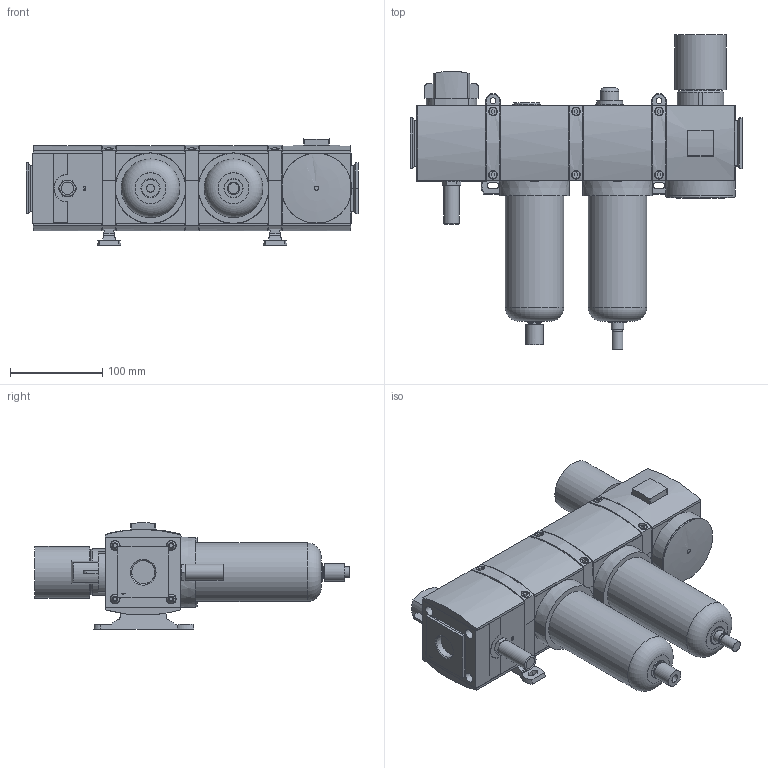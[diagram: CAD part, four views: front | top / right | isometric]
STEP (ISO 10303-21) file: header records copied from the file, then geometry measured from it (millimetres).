
FILE_DESCRIPTION( ( 'STEP AP214' ), '1' );
FILE_NAME( 'p:/temp/worker_226/temp/exporttempdir_3832_960_TXNf0/format_0/07382020-200234_gen_23170.stp', '2020-02-07T19:38:36', ( '' ), ( '' ), ' ', 'PARTsolutions', ' ' );
FILE_SCHEMA( ( 'AUTOMOTIVE_DESIGN { 1 0 10303 214 1 1 1 1 }' ) );
Length unit declared in the file: millimetre
Products named in the file (20): 07382020-200234_gen_23170; _440562-004-005-F(L); _439489-001-0; _437742 KNOB-100_653; _653-M3MN; _440561-004-005-F(L); _G653ASLA0B00A00_LS; _439498-011-F(L); _439851-002; _507439-006-P; _653-440512-002; _G653ASLA0A00A00_LS; _439851-001; _653-501862-002; _439488-011-F(L); _439489-002-H; _653-438047-009; _503493-001; _510722-001-STANDARD_653; _503402-001
Assembly tree (28 placements, depth 2):
  07382020-200234_gen_23170
    _440562-004-005-F(L)
    _439489-001-0  x7
    _437742 KNOB-100_653
    _653-M3MN
    _440561-004-005-F(L)
    _G653ASLA0B00A00_LS  x2
    _439498-011-F(L)  x2
    _439851-002
    _507439-006-P  x2
    _653-440512-002
    _G653ASLA0A00A00_LS
    _439851-001
    _653-501862-002
    _439488-011-F(L)
    _439489-002-H
    _653-438047-009
    _503493-001
    _510722-001-STANDARD_653
    _503402-001
Bounding box: 360 x 340.9 x 115.36 mm (x, y, z)
Volume: 3862284.4 mm3; surface area: 514906.1 mm2
Topology: 28 solids, 28 shells, 1339 faces, 3253 edges, 2092 vertices
Faces by surface type: plane 935, cylinder 261, cone 103, torus 33, sphere 6, bspline 1
Full cylindrical faces by diameter (mm): 1.7 x2, 2.8 x2, 3 x2, 5.85 x4, 6.3 x4, 6.5 x2, 8.5 x6, 8.6 x1, 10 x4, 10.4 x1, 10.5 x1, 10.8 x4, 11.671 x1, 12 x4, 12.309 x1, 12.985 x1, 13.5 x1, 15.1 x1, 16.105 x1, 17.3 x1, 19 x1, 19.847 x1, 20 x1, 21.6 x1, 22.7 x2, 28 x1, 29.5 x1, 30 x2, 33.5 x2, 43 x1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
Entity records: 40632 total; most frequent: CARTESIAN_POINT 6167, DIRECTION 5336, ORIENTED_EDGE 4962, EDGE_CURVE 2481, AXIS2_PLACEMENT_3D 1817, LINE 1702, VECTOR 1702, VERTEX_POINT 1677
